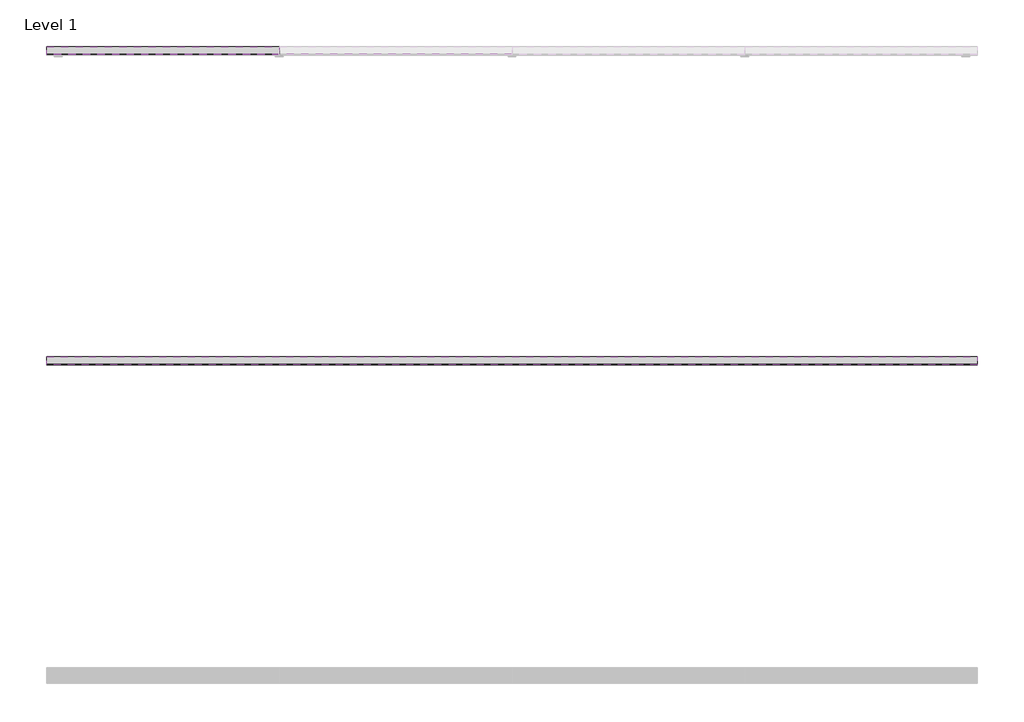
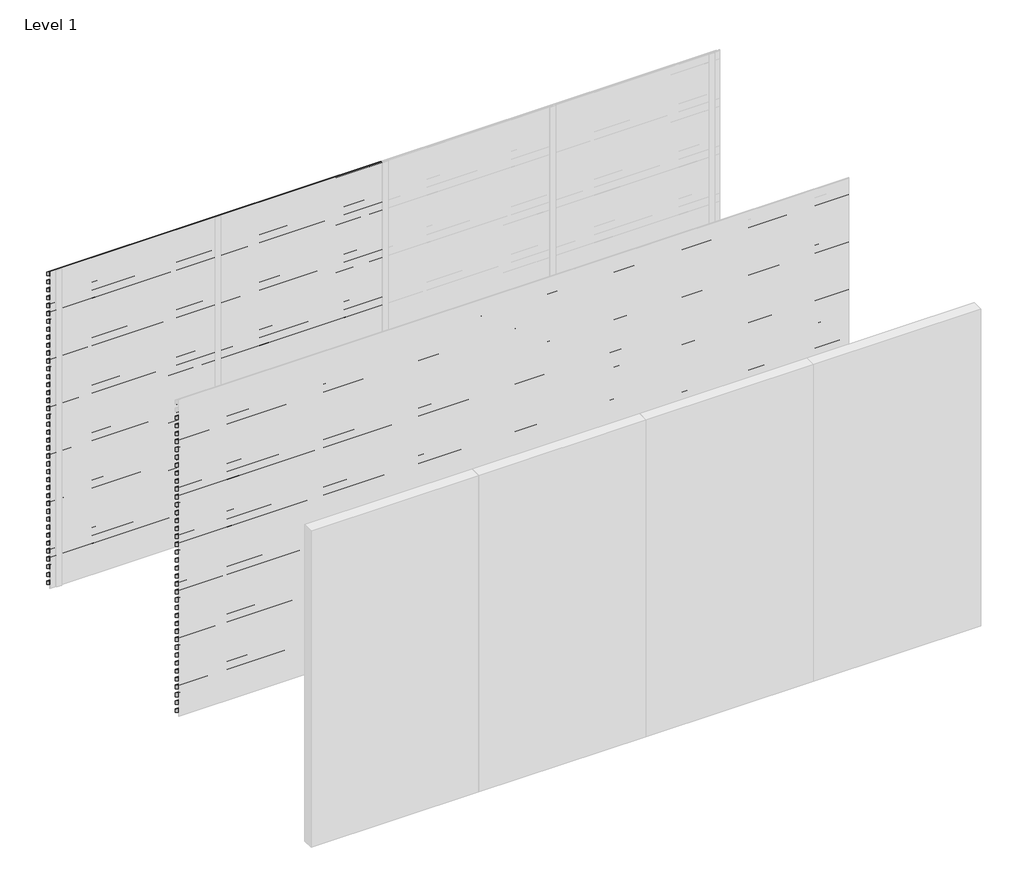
# One storey, part 8 of 9: 98 proxies.
"""IFC4 building model written with IfcOpenShell, lengths in millimetres."""

from ifc_helpers import new_model, si_unit, frame, origin, place, context, project, spatial, polyline, outline, extrude, element, save

model = new_model("IFC4")

# Units and contexts
model_context = context("Model", 3, world=origin())
ifc_project = project(units=[si_unit("LENGTHUNIT", "METRE", prefix="MILLI")], contexts=[model_context])

# Site, building, storey
site = spatial("IfcSite", under=ifc_project)
building = spatial("IfcBuilding", under=site)
storey = spatial("IfcBuildingStorey", under=building, Name="Level 1", Elevation=0.0)

# Proxies
placement = place(None, origin())
element("IfcBuildingElementProxy", 1, Name="Wall Sweeps", at=placement, inside=storey, context=model_context, shape_type="SweptSolid", body=[
    extrude(outline(polyline([(5.0, 3000.0), (5.0, 2991.2901632), (54.0, 2963.0), (54.0, 2928.0), (3.0, 2957.4448637), (3.0, 3000.0), (5.0, 3000.0)])), frame((0.0, 0.0, 0.0), z_axis=(1.0, 0.0, 0.0), x_axis=(0.0, 1.0, 0.0)), (0.0, 0.0, 1.0), 1500.0),
])
element("IfcBuildingElementProxy", 2, Name="Wall Sweeps", at=placement, inside=storey, context=model_context, shape_type="SweptSolid", body=[
    extrude(outline(polyline([(5.0, 2925.0), (5.0, 2916.2901632), (54.0, 2888.0), (54.0, 2853.0), (3.0, 2882.4448637), (3.0, 2925.0), (5.0, 2925.0)])), frame((0.0, 0.0, 0.0), z_axis=(1.0, 0.0, 0.0), x_axis=(0.0, 1.0, 0.0)), (0.0, 0.0, 1.0), 1500.0),
])
element("IfcBuildingElementProxy", 3, Name="Wall Sweeps", at=placement, inside=storey, context=model_context, shape_type="SweptSolid", body=[
    extrude(outline(polyline([(5.0, 2850.0), (5.0, 2841.2901632), (54.0, 2813.0), (54.0, 2778.0), (3.0, 2807.4448637), (3.0, 2850.0), (5.0, 2850.0)])), frame((0.0, 0.0, 0.0), z_axis=(1.0, 0.0, 0.0), x_axis=(0.0, 1.0, 0.0)), (0.0, 0.0, 1.0), 1500.0),
])
element("IfcBuildingElementProxy", 4, Name="Wall Sweeps", at=placement, inside=storey, context=model_context, shape_type="SweptSolid", body=[
    extrude(outline(polyline([(5.0, 2775.0), (5.0, 2766.2901632), (54.0, 2738.0), (54.0, 2703.0), (3.0, 2732.4448637), (3.0, 2775.0), (5.0, 2775.0)])), frame((0.0, 0.0, 0.0), z_axis=(1.0, 0.0, 0.0), x_axis=(0.0, 1.0, 0.0)), (0.0, 0.0, 1.0), 1500.0),
])
element("IfcBuildingElementProxy", 5, Name="Wall Sweeps", at=placement, inside=storey, context=model_context, shape_type="SweptSolid", body=[
    extrude(outline(polyline([(5.0, 2700.0), (5.0, 2691.2901632), (54.0, 2663.0), (54.0, 2628.0), (3.0, 2657.4448637), (3.0, 2700.0), (5.0, 2700.0)])), frame((0.0, 0.0, 0.0), z_axis=(1.0, 0.0, 0.0), x_axis=(0.0, 1.0, 0.0)), (0.0, 0.0, 1.0), 1500.0),
])
element("IfcBuildingElementProxy", 6, Name="Wall Sweeps", at=placement, inside=storey, context=model_context, shape_type="SweptSolid", body=[
    extrude(outline(polyline([(5.0, 2625.0), (5.0, 2616.2901632), (54.0, 2588.0), (54.0, 2553.0), (3.0, 2582.4448637), (3.0, 2625.0), (5.0, 2625.0)])), frame((0.0, 0.0, 0.0), z_axis=(1.0, 0.0, 0.0), x_axis=(0.0, 1.0, 0.0)), (0.0, 0.0, 1.0), 1500.0),
])
element("IfcBuildingElementProxy", 7, Name="Wall Sweeps", at=placement, inside=storey, context=model_context, shape_type="SweptSolid", body=[
    extrude(outline(polyline([(5.0, 2550.0), (5.0, 2541.2901632), (54.0, 2513.0), (54.0, 2478.0), (3.0, 2507.4448637), (3.0, 2550.0), (5.0, 2550.0)])), frame((0.0, 0.0, 0.0), z_axis=(1.0, 0.0, 0.0), x_axis=(0.0, 1.0, 0.0)), (0.0, 0.0, 1.0), 1500.0),
])
element("IfcBuildingElementProxy", 8, Name="Wall Sweeps", at=placement, inside=storey, context=model_context, shape_type="SweptSolid", body=[
    extrude(outline(polyline([(5.0, 2475.0), (5.0, 2466.2901632), (54.0, 2438.0), (54.0, 2403.0), (3.0, 2432.4448637), (3.0, 2475.0), (5.0, 2475.0)])), frame((0.0, 0.0, 0.0), z_axis=(1.0, 0.0, 0.0), x_axis=(0.0, 1.0, 0.0)), (0.0, 0.0, 1.0), 1500.0),
])
element("IfcBuildingElementProxy", 9, Name="Wall Sweeps", at=placement, inside=storey, context=model_context, shape_type="SweptSolid", body=[
    extrude(outline(polyline([(5.0, 2400.0), (5.0, 2391.2901632), (54.0, 2363.0), (54.0, 2328.0), (3.0, 2357.4448637), (3.0, 2400.0), (5.0, 2400.0)])), frame((0.0, 0.0, 0.0), z_axis=(1.0, 0.0, 0.0), x_axis=(0.0, 1.0, 0.0)), (0.0, 0.0, 1.0), 1500.0),
])
element("IfcBuildingElementProxy", 10, Name="Wall Sweeps", at=placement, inside=storey, context=model_context, shape_type="SweptSolid", body=[
    extrude(outline(polyline([(5.0, 2325.0), (5.0, 2316.2901632), (54.0, 2288.0), (54.0, 2253.0), (3.0, 2282.4448637), (3.0, 2325.0), (5.0, 2325.0)])), frame((0.0, 0.0, 0.0), z_axis=(1.0, 0.0, 0.0), x_axis=(0.0, 1.0, 0.0)), (0.0, 0.0, 1.0), 1500.0),
])
element("IfcBuildingElementProxy", 11, Name="Wall Sweeps", at=placement, inside=storey, context=model_context, shape_type="SweptSolid", body=[
    extrude(outline(polyline([(5.0, 2250.0), (5.0, 2241.2901632), (54.0, 2213.0), (54.0, 2178.0), (3.0, 2207.4448637), (3.0, 2250.0), (5.0, 2250.0)])), frame((0.0, 0.0, 0.0), z_axis=(1.0, 0.0, 0.0), x_axis=(0.0, 1.0, 0.0)), (0.0, 0.0, 1.0), 1500.0),
])
element("IfcBuildingElementProxy", 12, Name="Wall Sweeps", at=placement, inside=storey, context=model_context, shape_type="SweptSolid", body=[
    extrude(outline(polyline([(5.0, 2175.0), (5.0, 2166.2901632), (54.0, 2138.0), (54.0, 2103.0), (3.0, 2132.4448637), (3.0, 2175.0), (5.0, 2175.0)])), frame((0.0, 0.0, 0.0), z_axis=(1.0, 0.0, 0.0), x_axis=(0.0, 1.0, 0.0)), (0.0, 0.0, 1.0), 1500.0),
])
element("IfcBuildingElementProxy", 13, Name="Wall Sweeps", at=placement, inside=storey, context=model_context, shape_type="SweptSolid", body=[
    extrude(outline(polyline([(5.0, 2100.0), (5.0, 2091.2901632), (54.0, 2063.0), (54.0, 2028.0), (3.0, 2057.4448637), (3.0, 2100.0), (5.0, 2100.0)])), frame((0.0, 0.0, 0.0), z_axis=(1.0, 0.0, 0.0), x_axis=(0.0, 1.0, 0.0)), (0.0, 0.0, 1.0), 1500.0),
])
element("IfcBuildingElementProxy", 14, Name="Wall Sweeps", at=placement, inside=storey, context=model_context, shape_type="SweptSolid", body=[
    extrude(outline(polyline([(5.0, 2025.0), (5.0, 2016.2901632), (54.0, 1988.0), (54.0, 1953.0), (3.0, 1982.4448637), (3.0, 2025.0), (5.0, 2025.0)])), frame((0.0, 0.0, 0.0), z_axis=(1.0, 0.0, 0.0), x_axis=(0.0, 1.0, 0.0)), (0.0, 0.0, 1.0), 1500.0),
])
element("IfcBuildingElementProxy", 15, Name="Wall Sweeps", at=placement, inside=storey, context=model_context, shape_type="SweptSolid", body=[
    extrude(outline(polyline([(5.0, 1950.0), (5.0, 1941.2901632), (54.0, 1913.0), (54.0, 1878.0), (3.0, 1907.4448637), (3.0, 1950.0), (5.0, 1950.0)])), frame((0.0, 0.0, 0.0), z_axis=(1.0, 0.0, 0.0), x_axis=(0.0, 1.0, 0.0)), (0.0, 0.0, 1.0), 1500.0),
])
element("IfcBuildingElementProxy", 16, Name="Wall Sweeps", at=placement, inside=storey, context=model_context, shape_type="SweptSolid", body=[
    extrude(outline(polyline([(5.0, 1875.0), (5.0, 1866.2901632), (54.0, 1838.0), (54.0, 1803.0), (3.0, 1832.4448637), (3.0, 1875.0), (5.0, 1875.0)])), frame((0.0, 0.0, 0.0), z_axis=(1.0, 0.0, 0.0), x_axis=(0.0, 1.0, 0.0)), (0.0, 0.0, 1.0), 1500.0),
])
element("IfcBuildingElementProxy", 17, Name="Wall Sweeps", at=placement, inside=storey, context=model_context, shape_type="SweptSolid", body=[
    extrude(outline(polyline([(5.0, 1800.0), (5.0, 1791.2901632), (54.0, 1763.0), (54.0, 1728.0), (3.0, 1757.4448637), (3.0, 1800.0), (5.0, 1800.0)])), frame((0.0, 0.0, 0.0), z_axis=(1.0, 0.0, 0.0), x_axis=(0.0, 1.0, 0.0)), (0.0, 0.0, 1.0), 1500.0),
])
element("IfcBuildingElementProxy", 18, Name="Wall Sweeps", at=placement, inside=storey, context=model_context, shape_type="SweptSolid", body=[
    extrude(outline(polyline([(5.0, 1725.0), (5.0, 1716.2901632), (54.0, 1688.0), (54.0, 1653.0), (3.0, 1682.4448637), (3.0, 1725.0), (5.0, 1725.0)])), frame((0.0, 0.0, 0.0), z_axis=(1.0, 0.0, 0.0), x_axis=(0.0, 1.0, 0.0)), (0.0, 0.0, 1.0), 1500.0),
])
element("IfcBuildingElementProxy", 19, Name="Wall Sweeps", at=placement, inside=storey, context=model_context, shape_type="SweptSolid", body=[
    extrude(outline(polyline([(5.0, 1650.0), (5.0, 1641.2901632), (54.0, 1613.0), (54.0, 1578.0), (3.0, 1607.4448637), (3.0, 1650.0), (5.0, 1650.0)])), frame((0.0, 0.0, 0.0), z_axis=(1.0, 0.0, 0.0), x_axis=(0.0, 1.0, 0.0)), (0.0, 0.0, 1.0), 1500.0),
])
element("IfcBuildingElementProxy", 20, Name="Wall Sweeps", at=placement, inside=storey, context=model_context, shape_type="SweptSolid", body=[
    extrude(outline(polyline([(5.0, 1575.0), (5.0, 1566.2901632), (54.0, 1538.0), (54.0, 1503.0), (3.0, 1532.4448637), (3.0, 1575.0), (5.0, 1575.0)])), frame((0.0, 0.0, 0.0), z_axis=(1.0, 0.0, 0.0), x_axis=(0.0, 1.0, 0.0)), (0.0, 0.0, 1.0), 1500.0),
])
element("IfcBuildingElementProxy", 21, Name="Wall Sweeps", at=placement, inside=storey, context=model_context, shape_type="SweptSolid", body=[
    extrude(outline(polyline([(5.0, 1500.0), (5.0, 1491.2901632), (54.0, 1463.0), (54.0, 1428.0), (3.0, 1457.4448637), (3.0, 1500.0), (5.0, 1500.0)])), frame((0.0, 0.0, 0.0), z_axis=(1.0, 0.0, 0.0), x_axis=(0.0, 1.0, 0.0)), (0.0, 0.0, 1.0), 1500.0),
])
element("IfcBuildingElementProxy", 22, Name="Wall Sweeps", at=placement, inside=storey, context=model_context, shape_type="SweptSolid", body=[
    extrude(outline(polyline([(5.0, 1425.0), (5.0, 1416.2901632), (54.0, 1388.0), (54.0, 1353.0), (3.0, 1382.4448637), (3.0, 1425.0), (5.0, 1425.0)])), frame((0.0, 0.0, 0.0), z_axis=(1.0, 0.0, 0.0), x_axis=(0.0, 1.0, 0.0)), (0.0, 0.0, 1.0), 1500.0),
])
element("IfcBuildingElementProxy", 23, Name="Wall Sweeps", at=placement, inside=storey, context=model_context, shape_type="SweptSolid", body=[
    extrude(outline(polyline([(5.0, 1350.0), (5.0, 1341.2901632), (54.0, 1313.0), (54.0, 1278.0), (3.0, 1307.4448637), (3.0, 1350.0), (5.0, 1350.0)])), frame((0.0, 0.0, 0.0), z_axis=(1.0, 0.0, 0.0), x_axis=(0.0, 1.0, 0.0)), (0.0, 0.0, 1.0), 1500.0),
])
element("IfcBuildingElementProxy", 24, Name="Wall Sweeps", at=placement, inside=storey, context=model_context, shape_type="SweptSolid", body=[
    extrude(outline(polyline([(5.0, 1275.0), (5.0, 1266.2901632), (54.0, 1238.0), (54.0, 1203.0), (3.0, 1232.4448637), (3.0, 1275.0), (5.0, 1275.0)])), frame((0.0, 0.0, 0.0), z_axis=(1.0, 0.0, 0.0), x_axis=(0.0, 1.0, 0.0)), (0.0, 0.0, 1.0), 1500.0),
])
element("IfcBuildingElementProxy", 25, Name="Wall Sweeps", at=placement, inside=storey, context=model_context, shape_type="SweptSolid", body=[
    extrude(outline(polyline([(5.0, 1200.0), (5.0, 1191.2901632), (54.0, 1163.0), (54.0, 1128.0), (3.0, 1157.4448637), (3.0, 1200.0), (5.0, 1200.0)])), frame((0.0, 0.0, 0.0), z_axis=(1.0, 0.0, 0.0), x_axis=(0.0, 1.0, 0.0)), (0.0, 0.0, 1.0), 1500.0),
])
element("IfcBuildingElementProxy", 26, Name="Wall Sweeps", at=placement, inside=storey, context=model_context, shape_type="SweptSolid", body=[
    extrude(outline(polyline([(5.0, 1125.0), (5.0, 1116.2901632), (54.0, 1088.0), (54.0, 1053.0), (3.0, 1082.4448637), (3.0, 1125.0), (5.0, 1125.0)])), frame((0.0, 0.0, 0.0), z_axis=(1.0, 0.0, 0.0), x_axis=(0.0, 1.0, 0.0)), (0.0, 0.0, 1.0), 1500.0),
])
element("IfcBuildingElementProxy", 27, Name="Wall Sweeps", at=placement, inside=storey, context=model_context, shape_type="SweptSolid", body=[
    extrude(outline(polyline([(5.0, 1050.0), (5.0, 1041.2901632), (54.0, 1013.0), (54.0, 978.0), (3.0, 1007.4448637), (3.0, 1050.0), (5.0, 1050.0)])), frame((0.0, 0.0, 0.0), z_axis=(1.0, 0.0, 0.0), x_axis=(0.0, 1.0, 0.0)), (0.0, 0.0, 1.0), 1500.0),
])
element("IfcBuildingElementProxy", 28, Name="Wall Sweeps", at=placement, inside=storey, context=model_context, shape_type="SweptSolid", body=[
    extrude(outline(polyline([(5.0, 975.0), (5.0, 966.2901632), (54.0, 938.0), (54.0, 903.0), (3.0, 932.4448637), (3.0, 975.0), (5.0, 975.0)])), frame((0.0, 0.0, 0.0), z_axis=(1.0, 0.0, 0.0), x_axis=(0.0, 1.0, 0.0)), (0.0, 0.0, 1.0), 1500.0),
])
element("IfcBuildingElementProxy", 29, Name="Wall Sweeps", at=placement, inside=storey, context=model_context, shape_type="SweptSolid", body=[
    extrude(outline(polyline([(5.0, 900.0), (5.0, 891.2901632), (54.0, 863.0), (54.0, 828.0), (3.0, 857.4448637), (3.0, 900.0), (5.0, 900.0)])), frame((0.0, 0.0, 0.0), z_axis=(1.0, 0.0, 0.0), x_axis=(0.0, 1.0, 0.0)), (0.0, 0.0, 1.0), 1500.0),
])
element("IfcBuildingElementProxy", 30, Name="Wall Sweeps", at=placement, inside=storey, context=model_context, shape_type="SweptSolid", body=[
    extrude(outline(polyline([(5.0, 825.0), (5.0, 816.2901632), (54.0, 788.0), (54.0, 753.0), (3.0, 782.4448637), (3.0, 825.0), (5.0, 825.0)])), frame((0.0, 0.0, 0.0), z_axis=(1.0, 0.0, 0.0), x_axis=(0.0, 1.0, 0.0)), (0.0, 0.0, 1.0), 1500.0),
])
element("IfcBuildingElementProxy", 31, Name="Wall Sweeps", at=placement, inside=storey, context=model_context, shape_type="SweptSolid", body=[
    extrude(outline(polyline([(5.0, 750.0), (5.0, 741.2901632), (54.0, 713.0), (54.0, 678.0), (3.0, 707.4448637), (3.0, 750.0), (5.0, 750.0)])), frame((0.0, 0.0, 0.0), z_axis=(1.0, 0.0, 0.0), x_axis=(0.0, 1.0, 0.0)), (0.0, 0.0, 1.0), 1500.0),
])
element("IfcBuildingElementProxy", 32, Name="Wall Sweeps", at=placement, inside=storey, context=model_context, shape_type="SweptSolid", body=[
    extrude(outline(polyline([(5.0, 675.0), (5.0, 666.2901632), (54.0, 638.0), (54.0, 603.0), (3.0, 632.4448637), (3.0, 675.0), (5.0, 675.0)])), frame((0.0, 0.0, 0.0), z_axis=(1.0, 0.0, 0.0), x_axis=(0.0, 1.0, 0.0)), (0.0, 0.0, 1.0), 1500.0),
])
element("IfcBuildingElementProxy", 33, Name="Wall Sweeps", at=placement, inside=storey, context=model_context, shape_type="SweptSolid", body=[
    extrude(outline(polyline([(5.0, 600.0), (5.0, 591.2901632), (54.0, 563.0), (54.0, 528.0), (3.0, 557.4448637), (3.0, 600.0), (5.0, 600.0)])), frame((0.0, 0.0, 0.0), z_axis=(1.0, 0.0, 0.0), x_axis=(0.0, 1.0, 0.0)), (0.0, 0.0, 1.0), 1500.0),
])
element("IfcBuildingElementProxy", 34, Name="Wall Sweeps", at=placement, inside=storey, context=model_context, shape_type="SweptSolid", body=[
    extrude(outline(polyline([(5.0, 525.0), (5.0, 516.2901632), (54.0, 488.0), (54.0, 453.0), (3.0, 482.4448637), (3.0, 525.0), (5.0, 525.0)])), frame((0.0, 0.0, 0.0), z_axis=(1.0, 0.0, 0.0), x_axis=(0.0, 1.0, 0.0)), (0.0, 0.0, 1.0), 1500.0),
])
element("IfcBuildingElementProxy", 35, Name="Wall Sweeps", at=placement, inside=storey, context=model_context, shape_type="SweptSolid", body=[
    extrude(outline(polyline([(5.0, 450.0), (5.0, 441.2901632), (54.0, 413.0), (54.0, 378.0), (3.0, 407.4448637), (3.0, 450.0), (5.0, 450.0)])), frame((0.0, 0.0, 0.0), z_axis=(1.0, 0.0, 0.0), x_axis=(0.0, 1.0, 0.0)), (0.0, 0.0, 1.0), 1500.0),
])
element("IfcBuildingElementProxy", 36, Name="Wall Sweeps", at=placement, inside=storey, context=model_context, shape_type="SweptSolid", body=[
    extrude(outline(polyline([(5.0, 375.0), (5.0, 366.2901632), (54.0, 338.0), (54.0, 303.0), (3.0, 332.4448637), (3.0, 375.0), (5.0, 375.0)])), frame((0.0, 0.0, 0.0), z_axis=(1.0, 0.0, 0.0), x_axis=(0.0, 1.0, 0.0)), (0.0, 0.0, 1.0), 1500.0),
])
element("IfcBuildingElementProxy", 37, Name="Wall Sweeps", at=placement, inside=storey, context=model_context, shape_type="SweptSolid", body=[
    extrude(outline(polyline([(5.0, 300.0), (5.0, 291.2901632), (54.0, 263.0), (54.0, 228.0), (3.0, 257.4448637), (3.0, 300.0), (5.0, 300.0)])), frame((0.0, 0.0, 0.0), z_axis=(1.0, 0.0, 0.0), x_axis=(0.0, 1.0, 0.0)), (0.0, 0.0, 1.0), 1500.0),
])
element("IfcBuildingElementProxy", 38, Name="Wall Sweeps", at=placement, inside=storey, context=model_context, shape_type="SweptSolid", body=[
    extrude(outline(polyline([(5.0, 225.0), (5.0, 216.2901632), (54.0, 188.0), (54.0, 153.0), (3.0, 182.4448637), (3.0, 225.0), (5.0, 225.0)])), frame((0.0, 0.0, 0.0), z_axis=(1.0, 0.0, 0.0), x_axis=(0.0, 1.0, 0.0)), (0.0, 0.0, 1.0), 1500.0),
])
element("IfcBuildingElementProxy", 39, Name="Wall Sweeps", at=placement, inside=storey, context=model_context, shape_type="SweptSolid", body=[
    extrude(outline(polyline([(5.0, 150.0), (5.0, 141.2901632), (54.0, 113.0), (54.0, 78.0), (3.0, 107.4448637), (3.0, 150.0), (5.0, 150.0)])), frame((0.0, 0.0, 0.0), z_axis=(1.0, 0.0, 0.0), x_axis=(0.0, 1.0, 0.0)), (0.0, 0.0, 1.0), 1500.0),
])
element("IfcBuildingElementProxy", 40, Name="Wall Sweeps", at=placement, inside=storey, context=model_context, shape_type="SweptSolid", body=[
    extrude(outline(polyline([(5.0, 75.0), (5.0, 66.2901632), (54.0, 38.0), (54.0, 3.0), (3.0, 32.4448637), (3.0, 75.0), (5.0, 75.0)])), frame((0.0, 0.0, 0.0), z_axis=(1.0, 0.0, 0.0), x_axis=(0.0, 1.0, 0.0)), (0.0, 0.0, 1.0), 1500.0),
])
element("IfcBuildingElementProxy", 41, Name="Wall Sweeps", at=placement, inside=storey, context=model_context, shape_type="SweptSolid", body=[
    extrude(outline(polyline([(5.0, 3000.0), (5.0, 2991.2901632), (54.0, 2963.0), (54.0, 2928.0), (3.0, 2957.4448637), (3.0, 3000.0), (5.0, 3000.0)])), frame((1500.0, 0.0, 0.0), z_axis=(1.0, 0.0, 0.0), x_axis=(0.0, 1.0, 0.0)), (0.0, 0.0, 1.0), 1500.0),
])
element("IfcBuildingElementProxy", 42, Name="Wall Sweeps", at=placement, inside=storey, context=model_context, shape_type="SweptSolid", body=[
    extrude(outline(polyline([(5.0, 2925.0), (5.0, 2916.2901632), (54.0, 2888.0), (54.0, 2853.0), (3.0, 2882.4448637), (3.0, 2925.0), (5.0, 2925.0)])), frame((1500.0, 0.0, 0.0), z_axis=(1.0, 0.0, 0.0), x_axis=(0.0, 1.0, 0.0)), (0.0, 0.0, 1.0), 1500.0),
])
element("IfcBuildingElementProxy", 43, Name="Wall Sweeps", at=placement, inside=storey, context=model_context, shape_type="SweptSolid", body=[
    extrude(outline(polyline([(5.0, 2850.0), (5.0, 2841.2901632), (54.0, 2813.0), (54.0, 2778.0), (3.0, 2807.4448637), (3.0, 2850.0), (5.0, 2850.0)])), frame((1500.0, 0.0, 0.0), z_axis=(1.0, 0.0, 0.0), x_axis=(0.0, 1.0, 0.0)), (0.0, 0.0, 1.0), 1500.0),
])
element("IfcBuildingElementProxy", 44, Name="Wall Sweeps", at=placement, inside=storey, context=model_context, shape_type="SweptSolid", body=[
    extrude(outline(polyline([(5.0, 2775.0), (5.0, 2766.2901632), (54.0, 2738.0), (54.0, 2703.0), (3.0, 2732.4448637), (3.0, 2775.0), (5.0, 2775.0)])), frame((1500.0, 0.0, 0.0), z_axis=(1.0, 0.0, 0.0), x_axis=(0.0, 1.0, 0.0)), (0.0, 0.0, 1.0), 1500.0),
])
element("IfcBuildingElementProxy", 45, Name="Wall Sweeps", at=placement, inside=storey, context=model_context, shape_type="SweptSolid", body=[
    extrude(outline(polyline([(5.0, 2700.0), (5.0, 2691.2901632), (54.0, 2663.0), (54.0, 2628.0), (3.0, 2657.4448637), (3.0, 2700.0), (5.0, 2700.0)])), frame((1500.0, 0.0, 0.0), z_axis=(1.0, 0.0, 0.0), x_axis=(0.0, 1.0, 0.0)), (0.0, 0.0, 1.0), 1500.0),
])
element("IfcBuildingElementProxy", 46, Name="Wall Sweeps", at=placement, inside=storey, context=model_context, shape_type="SweptSolid", body=[
    extrude(outline(polyline([(5.0, 2625.0), (5.0, 2616.2901632), (54.0, 2588.0), (54.0, 2553.0), (3.0, 2582.4448637), (3.0, 2625.0), (5.0, 2625.0)])), frame((1500.0, 0.0, 0.0), z_axis=(1.0, 0.0, 0.0), x_axis=(0.0, 1.0, 0.0)), (0.0, 0.0, 1.0), 1500.0),
])
element("IfcBuildingElementProxy", 47, Name="Wall Sweeps", at=placement, inside=storey, context=model_context, shape_type="SweptSolid", body=[
    extrude(outline(polyline([(5.0, 2550.0), (5.0, 2541.2901632), (54.0, 2513.0), (54.0, 2478.0), (3.0, 2507.4448637), (3.0, 2550.0), (5.0, 2550.0)])), frame((1500.0, 0.0, 0.0), z_axis=(1.0, 0.0, 0.0), x_axis=(0.0, 1.0, 0.0)), (0.0, 0.0, 1.0), 1500.0),
])
element("IfcBuildingElementProxy", 48, Name="Wall Sweeps", at=placement, inside=storey, context=model_context, shape_type="SweptSolid", body=[
    extrude(outline(polyline([(5.0, 2475.0), (5.0, 2466.2901632), (54.0, 2438.0), (54.0, 2403.0), (3.0, 2432.4448637), (3.0, 2475.0), (5.0, 2475.0)])), frame((1500.0, 0.0, 0.0), z_axis=(1.0, 0.0, 0.0), x_axis=(0.0, 1.0, 0.0)), (0.0, 0.0, 1.0), 1500.0),
])
element("IfcBuildingElementProxy", 49, Name="Wall Sweeps", at=placement, inside=storey, context=model_context, shape_type="SweptSolid", body=[
    extrude(outline(polyline([(5.0, 2400.0), (5.0, 2391.2901632), (54.0, 2363.0), (54.0, 2328.0), (3.0, 2357.4448637), (3.0, 2400.0), (5.0, 2400.0)])), frame((1500.0, 0.0, 0.0), z_axis=(1.0, 0.0, 0.0), x_axis=(0.0, 1.0, 0.0)), (0.0, 0.0, 1.0), 1500.0),
])
element("IfcBuildingElementProxy", 50, Name="Wall Sweeps", at=placement, inside=storey, context=model_context, shape_type="SweptSolid", body=[
    extrude(outline(polyline([(5.0, 2325.0), (5.0, 2316.2901632), (54.0, 2288.0), (54.0, 2253.0), (3.0, 2282.4448637), (3.0, 2325.0), (5.0, 2325.0)])), frame((1500.0, 0.0, 0.0), z_axis=(1.0, 0.0, 0.0), x_axis=(0.0, 1.0, 0.0)), (0.0, 0.0, 1.0), 1500.0),
])
element("IfcBuildingElementProxy", 51, Name="Wall Sweeps", at=placement, inside=storey, context=model_context, shape_type="SweptSolid", body=[
    extrude(outline(polyline([(5.0, 2250.0), (5.0, 2241.2901632), (54.0, 2213.0), (54.0, 2178.0), (3.0, 2207.4448637), (3.0, 2250.0), (5.0, 2250.0)])), frame((1500.0, 0.0, 0.0), z_axis=(1.0, 0.0, 0.0), x_axis=(0.0, 1.0, 0.0)), (0.0, 0.0, 1.0), 1500.0),
])
element("IfcBuildingElementProxy", 52, Name="Wall Sweeps", at=placement, inside=storey, context=model_context, shape_type="SweptSolid", body=[
    extrude(outline(polyline([(5.0, 2175.0), (5.0, 2166.2901632), (54.0, 2138.0), (54.0, 2103.0), (3.0, 2132.4448637), (3.0, 2175.0), (5.0, 2175.0)])), frame((1500.0, 0.0, 0.0), z_axis=(1.0, 0.0, 0.0), x_axis=(0.0, 1.0, 0.0)), (0.0, 0.0, 1.0), 1500.0),
])
element("IfcBuildingElementProxy", 53, Name="Wall Sweeps", at=placement, inside=storey, context=model_context, shape_type="SweptSolid", body=[
    extrude(outline(polyline([(5.0, 2100.0), (5.0, 2091.2901632), (54.0, 2063.0), (54.0, 2028.0), (3.0, 2057.4448637), (3.0, 2100.0), (5.0, 2100.0)])), frame((1500.0, 0.0, 0.0), z_axis=(1.0, 0.0, 0.0), x_axis=(0.0, 1.0, 0.0)), (0.0, 0.0, 1.0), 1500.0),
])
element("IfcBuildingElementProxy", 54, Name="Wall Sweeps", at=placement, inside=storey, context=model_context, shape_type="SweptSolid", body=[
    extrude(outline(polyline([(5.0, 2025.0), (5.0, 2016.2901632), (54.0, 1988.0), (54.0, 1953.0), (3.0, 1982.4448637), (3.0, 2025.0), (5.0, 2025.0)])), frame((1500.0, 0.0, 0.0), z_axis=(1.0, 0.0, 0.0), x_axis=(0.0, 1.0, 0.0)), (0.0, 0.0, 1.0), 1500.0),
])
element("IfcBuildingElementProxy", 55, Name="Wall Sweeps", at=placement, inside=storey, context=model_context, shape_type="SweptSolid", body=[
    extrude(outline(polyline([(5.0, 1950.0), (5.0, 1941.2901632), (54.0, 1913.0), (54.0, 1878.0), (3.0, 1907.4448637), (3.0, 1950.0), (5.0, 1950.0)])), frame((1500.0, 0.0, 0.0), z_axis=(1.0, 0.0, 0.0), x_axis=(0.0, 1.0, 0.0)), (0.0, 0.0, 1.0), 1500.0),
])
element("IfcBuildingElementProxy", 56, Name="Wall Sweeps", at=placement, inside=storey, context=model_context, shape_type="SweptSolid", body=[
    extrude(outline(polyline([(5.0, 1875.0), (5.0, 1866.2901632), (54.0, 1838.0), (54.0, 1803.0), (3.0, 1832.4448637), (3.0, 1875.0), (5.0, 1875.0)])), frame((1500.0, 0.0, 0.0), z_axis=(1.0, 0.0, 0.0), x_axis=(0.0, 1.0, 0.0)), (0.0, 0.0, 1.0), 1500.0),
])
element("IfcBuildingElementProxy", 57, Name="Wall Sweeps", at=placement, inside=storey, context=model_context, shape_type="SweptSolid", body=[
    extrude(outline(polyline([(5.0, 1800.0), (5.0, 1791.2901632), (54.0, 1763.0), (54.0, 1728.0), (3.0, 1757.4448637), (3.0, 1800.0), (5.0, 1800.0)])), frame((1500.0, 0.0, 0.0), z_axis=(1.0, 0.0, 0.0), x_axis=(0.0, 1.0, 0.0)), (0.0, 0.0, 1.0), 1500.0),
])
element("IfcBuildingElementProxy", 58, Name="Wall Sweeps", at=placement, inside=storey, context=model_context, shape_type="SweptSolid", body=[
    extrude(outline(polyline([(5.0, 1725.0), (5.0, 1716.2901632), (54.0, 1688.0), (54.0, 1653.0), (3.0, 1682.4448637), (3.0, 1725.0), (5.0, 1725.0)])), frame((1500.0, 0.0, 0.0), z_axis=(1.0, 0.0, 0.0), x_axis=(0.0, 1.0, 0.0)), (0.0, 0.0, 1.0), 1500.0),
])
element("IfcBuildingElementProxy", 59, Name="Wall Sweeps", at=placement, inside=storey, context=model_context, shape_type="SweptSolid", body=[
    extrude(outline(polyline([(5.0, 1650.0), (5.0, 1641.2901632), (54.0, 1613.0), (54.0, 1578.0), (3.0, 1607.4448637), (3.0, 1650.0), (5.0, 1650.0)])), frame((1500.0, 0.0, 0.0), z_axis=(1.0, 0.0, 0.0), x_axis=(0.0, 1.0, 0.0)), (0.0, 0.0, 1.0), 1500.0),
])
element("IfcBuildingElementProxy", 60, Name="Wall Sweeps", at=placement, inside=storey, context=model_context, shape_type="SweptSolid", body=[
    extrude(outline(polyline([(5.0, 1575.0), (5.0, 1566.2901632), (54.0, 1538.0), (54.0, 1503.0), (3.0, 1532.4448637), (3.0, 1575.0), (5.0, 1575.0)])), frame((1500.0, 0.0, 0.0), z_axis=(1.0, 0.0, 0.0), x_axis=(0.0, 1.0, 0.0)), (0.0, 0.0, 1.0), 1500.0),
])
element("IfcBuildingElementProxy", 61, Name="Wall Sweeps", at=placement, inside=storey, context=model_context, shape_type="SweptSolid", body=[
    extrude(outline(polyline([(-1995.0, 2850.0), (-1995.0, 2841.2901632), (-1946.0, 2813.0), (-1946.0, 2778.0), (-1997.0, 2807.4448637), (-1997.0, 2850.0), (-1995.0, 2850.0)])), frame((0.0, 0.0, 0.0), z_axis=(1.0, 0.0, 0.0), x_axis=(0.0, 1.0, 0.0)), (0.0, 0.0, 1.0), 6000.0),
])
element("IfcBuildingElementProxy", 62, Name="Wall Sweeps", at=placement, inside=storey, context=model_context, shape_type="SweptSolid", body=[
    extrude(outline(polyline([(-1995.0, 2775.0), (-1995.0, 2766.2901632), (-1946.0, 2738.0), (-1946.0, 2703.0), (-1997.0, 2732.4448637), (-1997.0, 2775.0), (-1995.0, 2775.0)])), frame((0.0, 0.0, 0.0), z_axis=(1.0, 0.0, 0.0), x_axis=(0.0, 1.0, 0.0)), (0.0, 0.0, 1.0), 6000.0),
])
element("IfcBuildingElementProxy", 63, Name="Wall Sweeps", at=placement, inside=storey, context=model_context, shape_type="SweptSolid", body=[
    extrude(outline(polyline([(-1995.0, 2700.0), (-1995.0, 2691.2901632), (-1946.0, 2663.0), (-1946.0, 2628.0), (-1997.0, 2657.4448637), (-1997.0, 2700.0), (-1995.0, 2700.0)])), frame((0.0, 0.0, 0.0), z_axis=(1.0, 0.0, 0.0), x_axis=(0.0, 1.0, 0.0)), (0.0, 0.0, 1.0), 6000.0),
])
element("IfcBuildingElementProxy", 64, Name="Wall Sweeps", at=placement, inside=storey, context=model_context, shape_type="SweptSolid", body=[
    extrude(outline(polyline([(-1995.0, 2625.0), (-1995.0, 2616.2901632), (-1946.0, 2588.0), (-1946.0, 2553.0), (-1997.0, 2582.4448637), (-1997.0, 2625.0), (-1995.0, 2625.0)])), frame((0.0, 0.0, 0.0), z_axis=(1.0, 0.0, 0.0), x_axis=(0.0, 1.0, 0.0)), (0.0, 0.0, 1.0), 6000.0),
])
element("IfcBuildingElementProxy", 65, Name="Wall Sweeps", at=placement, inside=storey, context=model_context, shape_type="SweptSolid", body=[
    extrude(outline(polyline([(-1995.0, 2550.0), (-1995.0, 2541.2901632), (-1946.0, 2513.0), (-1946.0, 2478.0), (-1997.0, 2507.4448637), (-1997.0, 2550.0), (-1995.0, 2550.0)])), frame((0.0, 0.0, 0.0), z_axis=(1.0, 0.0, 0.0), x_axis=(0.0, 1.0, 0.0)), (0.0, 0.0, 1.0), 6000.0),
])
element("IfcBuildingElementProxy", 66, Name="Wall Sweeps", at=placement, inside=storey, context=model_context, shape_type="SweptSolid", body=[
    extrude(outline(polyline([(-1995.0, 2475.0), (-1995.0, 2466.2901632), (-1946.0, 2438.0), (-1946.0, 2403.0), (-1997.0, 2432.4448637), (-1997.0, 2475.0), (-1995.0, 2475.0)])), frame((0.0, 0.0, 0.0), z_axis=(1.0, 0.0, 0.0), x_axis=(0.0, 1.0, 0.0)), (0.0, 0.0, 1.0), 6000.0),
])
element("IfcBuildingElementProxy", 67, Name="Wall Sweeps", at=placement, inside=storey, context=model_context, shape_type="SweptSolid", body=[
    extrude(outline(polyline([(-1995.0, 2400.0), (-1995.0, 2391.2901632), (-1946.0, 2363.0), (-1946.0, 2328.0), (-1997.0, 2357.4448637), (-1997.0, 2400.0), (-1995.0, 2400.0)])), frame((0.0, 0.0, 0.0), z_axis=(1.0, 0.0, 0.0), x_axis=(0.0, 1.0, 0.0)), (0.0, 0.0, 1.0), 6000.0),
])
element("IfcBuildingElementProxy", 68, Name="Wall Sweeps", at=placement, inside=storey, context=model_context, shape_type="SweptSolid", body=[
    extrude(outline(polyline([(-1995.0, 2325.0), (-1995.0, 2316.2901632), (-1946.0, 2288.0), (-1946.0, 2253.0), (-1997.0, 2282.4448637), (-1997.0, 2325.0), (-1995.0, 2325.0)])), frame((0.0, 0.0, 0.0), z_axis=(1.0, 0.0, 0.0), x_axis=(0.0, 1.0, 0.0)), (0.0, 0.0, 1.0), 6000.0),
])
element("IfcBuildingElementProxy", 69, Name="Wall Sweeps", at=placement, inside=storey, context=model_context, shape_type="SweptSolid", body=[
    extrude(outline(polyline([(-1995.0, 2250.0), (-1995.0, 2241.2901632), (-1946.0, 2213.0), (-1946.0, 2178.0), (-1997.0, 2207.4448637), (-1997.0, 2250.0), (-1995.0, 2250.0)])), frame((0.0, 0.0, 0.0), z_axis=(1.0, 0.0, 0.0), x_axis=(0.0, 1.0, 0.0)), (0.0, 0.0, 1.0), 6000.0),
])
element("IfcBuildingElementProxy", 70, Name="Wall Sweeps", at=placement, inside=storey, context=model_context, shape_type="SweptSolid", body=[
    extrude(outline(polyline([(-1995.0, 2175.0), (-1995.0, 2166.2901632), (-1946.0, 2138.0), (-1946.0, 2103.0), (-1997.0, 2132.4448637), (-1997.0, 2175.0), (-1995.0, 2175.0)])), frame((0.0, 0.0, 0.0), z_axis=(1.0, 0.0, 0.0), x_axis=(0.0, 1.0, 0.0)), (0.0, 0.0, 1.0), 6000.0),
])
element("IfcBuildingElementProxy", 71, Name="Wall Sweeps", at=placement, inside=storey, context=model_context, shape_type="SweptSolid", body=[
    extrude(outline(polyline([(-1995.0, 2100.0), (-1995.0, 2091.2901632), (-1946.0, 2063.0), (-1946.0, 2028.0), (-1997.0, 2057.4448637), (-1997.0, 2100.0), (-1995.0, 2100.0)])), frame((0.0, 0.0, 0.0), z_axis=(1.0, 0.0, 0.0), x_axis=(0.0, 1.0, 0.0)), (0.0, 0.0, 1.0), 6000.0),
])
element("IfcBuildingElementProxy", 72, Name="Wall Sweeps", at=placement, inside=storey, context=model_context, shape_type="SweptSolid", body=[
    extrude(outline(polyline([(-1995.0, 2025.0), (-1995.0, 2016.2901632), (-1946.0, 1988.0), (-1946.0, 1953.0), (-1997.0, 1982.4448637), (-1997.0, 2025.0), (-1995.0, 2025.0)])), frame((0.0, 0.0, 0.0), z_axis=(1.0, 0.0, 0.0), x_axis=(0.0, 1.0, 0.0)), (0.0, 0.0, 1.0), 6000.0),
])
element("IfcBuildingElementProxy", 73, Name="Wall Sweeps", at=placement, inside=storey, context=model_context, shape_type="SweptSolid", body=[
    extrude(outline(polyline([(-1995.0, 1950.0), (-1995.0, 1941.2901632), (-1946.0, 1913.0), (-1946.0, 1878.0), (-1997.0, 1907.4448637), (-1997.0, 1950.0), (-1995.0, 1950.0)])), frame((0.0, 0.0, 0.0), z_axis=(1.0, 0.0, 0.0), x_axis=(0.0, 1.0, 0.0)), (0.0, 0.0, 1.0), 6000.0),
])
element("IfcBuildingElementProxy", 74, Name="Wall Sweeps", at=placement, inside=storey, context=model_context, shape_type="SweptSolid", body=[
    extrude(outline(polyline([(-1995.0, 1875.0), (-1995.0, 1866.2901632), (-1946.0, 1838.0), (-1946.0, 1803.0), (-1997.0, 1832.4448637), (-1997.0, 1875.0), (-1995.0, 1875.0)])), frame((0.0, 0.0, 0.0), z_axis=(1.0, 0.0, 0.0), x_axis=(0.0, 1.0, 0.0)), (0.0, 0.0, 1.0), 6000.0),
])
element("IfcBuildingElementProxy", 75, Name="Wall Sweeps", at=placement, inside=storey, context=model_context, shape_type="SweptSolid", body=[
    extrude(outline(polyline([(-1995.0, 1800.0), (-1995.0, 1791.2901632), (-1946.0, 1763.0), (-1946.0, 1728.0), (-1997.0, 1757.4448637), (-1997.0, 1800.0), (-1995.0, 1800.0)])), frame((0.0, 0.0, 0.0), z_axis=(1.0, 0.0, 0.0), x_axis=(0.0, 1.0, 0.0)), (0.0, 0.0, 1.0), 6000.0),
])
element("IfcBuildingElementProxy", 76, Name="Wall Sweeps", at=placement, inside=storey, context=model_context, shape_type="SweptSolid", body=[
    extrude(outline(polyline([(-1995.0, 1725.0), (-1995.0, 1716.2901632), (-1946.0, 1688.0), (-1946.0, 1653.0), (-1997.0, 1682.4448637), (-1997.0, 1725.0), (-1995.0, 1725.0)])), frame((0.0, 0.0, 0.0), z_axis=(1.0, 0.0, 0.0), x_axis=(0.0, 1.0, 0.0)), (0.0, 0.0, 1.0), 6000.0),
])
element("IfcBuildingElementProxy", 77, Name="Wall Sweeps", at=placement, inside=storey, context=model_context, shape_type="SweptSolid", body=[
    extrude(outline(polyline([(-1995.0, 1650.0), (-1995.0, 1641.2901632), (-1946.0, 1613.0), (-1946.0, 1578.0), (-1997.0, 1607.4448637), (-1997.0, 1650.0), (-1995.0, 1650.0)])), frame((0.0, 0.0, 0.0), z_axis=(1.0, 0.0, 0.0), x_axis=(0.0, 1.0, 0.0)), (0.0, 0.0, 1.0), 6000.0),
])
element("IfcBuildingElementProxy", 78, Name="Wall Sweeps", at=placement, inside=storey, context=model_context, shape_type="SweptSolid", body=[
    extrude(outline(polyline([(-1995.0, 1575.0), (-1995.0, 1566.2901632), (-1946.0, 1538.0), (-1946.0, 1503.0), (-1997.0, 1532.4448637), (-1997.0, 1575.0), (-1995.0, 1575.0)])), frame((0.0, 0.0, 0.0), z_axis=(1.0, 0.0, 0.0), x_axis=(0.0, 1.0, 0.0)), (0.0, 0.0, 1.0), 6000.0),
])
element("IfcBuildingElementProxy", 79, Name="Wall Sweeps", at=placement, inside=storey, context=model_context, shape_type="SweptSolid", body=[
    extrude(outline(polyline([(-1995.0, 1500.0), (-1995.0, 1491.2901632), (-1946.0, 1463.0), (-1946.0, 1428.0), (-1997.0, 1457.4448637), (-1997.0, 1500.0), (-1995.0, 1500.0)])), frame((0.0, 0.0, 0.0), z_axis=(1.0, 0.0, 0.0), x_axis=(0.0, 1.0, 0.0)), (0.0, 0.0, 1.0), 6000.0),
])
element("IfcBuildingElementProxy", 80, Name="Wall Sweeps", at=placement, inside=storey, context=model_context, shape_type="SweptSolid", body=[
    extrude(outline(polyline([(-1995.0, 1425.0), (-1995.0, 1416.2901632), (-1946.0, 1388.0), (-1946.0, 1353.0), (-1997.0, 1382.4448637), (-1997.0, 1425.0), (-1995.0, 1425.0)])), frame((0.0, 0.0, 0.0), z_axis=(1.0, 0.0, 0.0), x_axis=(0.0, 1.0, 0.0)), (0.0, 0.0, 1.0), 6000.0),
])
element("IfcBuildingElementProxy", 81, Name="Wall Sweeps", at=placement, inside=storey, context=model_context, shape_type="SweptSolid", body=[
    extrude(outline(polyline([(-1995.0, 1350.0), (-1995.0, 1341.2901632), (-1946.0, 1313.0), (-1946.0, 1278.0), (-1997.0, 1307.4448637), (-1997.0, 1350.0), (-1995.0, 1350.0)])), frame((0.0, 0.0, 0.0), z_axis=(1.0, 0.0, 0.0), x_axis=(0.0, 1.0, 0.0)), (0.0, 0.0, 1.0), 6000.0),
])
element("IfcBuildingElementProxy", 82, Name="Wall Sweeps", at=placement, inside=storey, context=model_context, shape_type="SweptSolid", body=[
    extrude(outline(polyline([(-1995.0, 1275.0), (-1995.0, 1266.2901632), (-1946.0, 1238.0), (-1946.0, 1203.0), (-1997.0, 1232.4448637), (-1997.0, 1275.0), (-1995.0, 1275.0)])), frame((0.0, 0.0, 0.0), z_axis=(1.0, 0.0, 0.0), x_axis=(0.0, 1.0, 0.0)), (0.0, 0.0, 1.0), 6000.0),
])
element("IfcBuildingElementProxy", 83, Name="Wall Sweeps", at=placement, inside=storey, context=model_context, shape_type="SweptSolid", body=[
    extrude(outline(polyline([(-1995.0, 1200.0), (-1995.0, 1191.2901632), (-1946.0, 1163.0), (-1946.0, 1128.0), (-1997.0, 1157.4448637), (-1997.0, 1200.0), (-1995.0, 1200.0)])), frame((0.0, 0.0, 0.0), z_axis=(1.0, 0.0, 0.0), x_axis=(0.0, 1.0, 0.0)), (0.0, 0.0, 1.0), 6000.0),
])
element("IfcBuildingElementProxy", 84, Name="Wall Sweeps", at=placement, inside=storey, context=model_context, shape_type="SweptSolid", body=[
    extrude(outline(polyline([(-1995.0, 1125.0), (-1995.0, 1116.2901632), (-1946.0, 1088.0), (-1946.0, 1053.0), (-1997.0, 1082.4448637), (-1997.0, 1125.0), (-1995.0, 1125.0)])), frame((0.0, 0.0, 0.0), z_axis=(1.0, 0.0, 0.0), x_axis=(0.0, 1.0, 0.0)), (0.0, 0.0, 1.0), 6000.0),
])
element("IfcBuildingElementProxy", 85, Name="Wall Sweeps", at=placement, inside=storey, context=model_context, shape_type="SweptSolid", body=[
    extrude(outline(polyline([(-1995.0, 1050.0), (-1995.0, 1041.2901632), (-1946.0, 1013.0), (-1946.0, 978.0), (-1997.0, 1007.4448637), (-1997.0, 1050.0), (-1995.0, 1050.0)])), frame((0.0, 0.0, 0.0), z_axis=(1.0, 0.0, 0.0), x_axis=(0.0, 1.0, 0.0)), (0.0, 0.0, 1.0), 6000.0),
])
element("IfcBuildingElementProxy", 86, Name="Wall Sweeps", at=placement, inside=storey, context=model_context, shape_type="SweptSolid", body=[
    extrude(outline(polyline([(-1995.0, 975.0), (-1995.0, 966.2901632), (-1946.0, 938.0), (-1946.0, 903.0), (-1997.0, 932.4448637), (-1997.0, 975.0), (-1995.0, 975.0)])), frame((0.0, 0.0, 0.0), z_axis=(1.0, 0.0, 0.0), x_axis=(0.0, 1.0, 0.0)), (0.0, 0.0, 1.0), 6000.0),
])
element("IfcBuildingElementProxy", 87, Name="Wall Sweeps", at=placement, inside=storey, context=model_context, shape_type="SweptSolid", body=[
    extrude(outline(polyline([(-1995.0, 900.0), (-1995.0, 891.2901632), (-1946.0, 863.0), (-1946.0, 828.0), (-1997.0, 857.4448637), (-1997.0, 900.0), (-1995.0, 900.0)])), frame((0.0, 0.0, 0.0), z_axis=(1.0, 0.0, 0.0), x_axis=(0.0, 1.0, 0.0)), (0.0, 0.0, 1.0), 6000.0),
])
element("IfcBuildingElementProxy", 88, Name="Wall Sweeps", at=placement, inside=storey, context=model_context, shape_type="SweptSolid", body=[
    extrude(outline(polyline([(-1995.0, 825.0), (-1995.0, 816.2901632), (-1946.0, 788.0), (-1946.0, 753.0), (-1997.0, 782.4448637), (-1997.0, 825.0), (-1995.0, 825.0)])), frame((0.0, 0.0, 0.0), z_axis=(1.0, 0.0, 0.0), x_axis=(0.0, 1.0, 0.0)), (0.0, 0.0, 1.0), 6000.0),
])
element("IfcBuildingElementProxy", 89, Name="Wall Sweeps", at=placement, inside=storey, context=model_context, shape_type="SweptSolid", body=[
    extrude(outline(polyline([(-1995.0, 750.0), (-1995.0, 741.2901632), (-1946.0, 713.0), (-1946.0, 678.0), (-1997.0, 707.4448637), (-1997.0, 750.0), (-1995.0, 750.0)])), frame((0.0, 0.0, 0.0), z_axis=(1.0, 0.0, 0.0), x_axis=(0.0, 1.0, 0.0)), (0.0, 0.0, 1.0), 6000.0),
])
element("IfcBuildingElementProxy", 90, Name="Wall Sweeps", at=placement, inside=storey, context=model_context, shape_type="SweptSolid", body=[
    extrude(outline(polyline([(-1995.0, 675.0), (-1995.0, 666.2901632), (-1946.0, 638.0), (-1946.0, 603.0), (-1997.0, 632.4448637), (-1997.0, 675.0), (-1995.0, 675.0)])), frame((0.0, 0.0, 0.0), z_axis=(1.0, 0.0, 0.0), x_axis=(0.0, 1.0, 0.0)), (0.0, 0.0, 1.0), 6000.0),
])
element("IfcBuildingElementProxy", 91, Name="Wall Sweeps", at=placement, inside=storey, context=model_context, shape_type="SweptSolid", body=[
    extrude(outline(polyline([(-1995.0, 600.0), (-1995.0, 591.2901632), (-1946.0, 563.0), (-1946.0, 528.0), (-1997.0, 557.4448637), (-1997.0, 600.0), (-1995.0, 600.0)])), frame((0.0, 0.0, 0.0), z_axis=(1.0, 0.0, 0.0), x_axis=(0.0, 1.0, 0.0)), (0.0, 0.0, 1.0), 6000.0),
])
element("IfcBuildingElementProxy", 92, Name="Wall Sweeps", at=placement, inside=storey, context=model_context, shape_type="SweptSolid", body=[
    extrude(outline(polyline([(-1995.0, 525.0), (-1995.0, 516.2901632), (-1946.0, 488.0), (-1946.0, 453.0), (-1997.0, 482.4448637), (-1997.0, 525.0), (-1995.0, 525.0)])), frame((0.0, 0.0, 0.0), z_axis=(1.0, 0.0, 0.0), x_axis=(0.0, 1.0, 0.0)), (0.0, 0.0, 1.0), 6000.0),
])
element("IfcBuildingElementProxy", 93, Name="Wall Sweeps", at=placement, inside=storey, context=model_context, shape_type="SweptSolid", body=[
    extrude(outline(polyline([(-1995.0, 450.0), (-1995.0, 441.2901632), (-1946.0, 413.0), (-1946.0, 378.0), (-1997.0, 407.4448637), (-1997.0, 450.0), (-1995.0, 450.0)])), frame((0.0, 0.0, 0.0), z_axis=(1.0, 0.0, 0.0), x_axis=(0.0, 1.0, 0.0)), (0.0, 0.0, 1.0), 6000.0),
])
element("IfcBuildingElementProxy", 94, Name="Wall Sweeps", at=placement, inside=storey, context=model_context, shape_type="SweptSolid", body=[
    extrude(outline(polyline([(-1995.0, 375.0), (-1995.0, 366.2901632), (-1946.0, 338.0), (-1946.0, 303.0), (-1997.0, 332.4448637), (-1997.0, 375.0), (-1995.0, 375.0)])), frame((0.0, 0.0, 0.0), z_axis=(1.0, 0.0, 0.0), x_axis=(0.0, 1.0, 0.0)), (0.0, 0.0, 1.0), 6000.0),
])
element("IfcBuildingElementProxy", 95, Name="Wall Sweeps", at=placement, inside=storey, context=model_context, shape_type="SweptSolid", body=[
    extrude(outline(polyline([(-1995.0, 300.0), (-1995.0, 291.2901632), (-1946.0, 263.0), (-1946.0, 228.0), (-1997.0, 257.4448637), (-1997.0, 300.0), (-1995.0, 300.0)])), frame((0.0, 0.0, 0.0), z_axis=(1.0, 0.0, 0.0), x_axis=(0.0, 1.0, 0.0)), (0.0, 0.0, 1.0), 6000.0),
])
element("IfcBuildingElementProxy", 96, Name="Wall Sweeps", at=placement, inside=storey, context=model_context, shape_type="SweptSolid", body=[
    extrude(outline(polyline([(-1995.0, 225.0), (-1995.0, 216.2901632), (-1946.0, 188.0), (-1946.0, 153.0), (-1997.0, 182.4448637), (-1997.0, 225.0), (-1995.0, 225.0)])), frame((0.0, 0.0, 0.0), z_axis=(1.0, 0.0, 0.0), x_axis=(0.0, 1.0, 0.0)), (0.0, 0.0, 1.0), 6000.0),
])
element("IfcBuildingElementProxy", 97, Name="Wall Sweeps", at=placement, inside=storey, context=model_context, shape_type="SweptSolid", body=[
    extrude(outline(polyline([(-1995.0, 150.0), (-1995.0, 141.2901632), (-1946.0, 113.0), (-1946.0, 78.0), (-1997.0, 107.4448637), (-1997.0, 150.0), (-1995.0, 150.0)])), frame((0.0, 0.0, 0.0), z_axis=(1.0, 0.0, 0.0), x_axis=(0.0, 1.0, 0.0)), (0.0, 0.0, 1.0), 6000.0),
])
element("IfcBuildingElementProxy", 98, Name="Wall Sweeps", at=placement, inside=storey, context=model_context, shape_type="SweptSolid", body=[
    extrude(outline(polyline([(-1995.0, 75.0), (-1995.0, 66.2901632), (-1946.0, 38.0), (-1946.0, 3.0), (-1997.0, 32.4448637), (-1997.0, 75.0), (-1995.0, 75.0)])), frame((0.0, 0.0, 0.0), z_axis=(1.0, 0.0, 0.0), x_axis=(0.0, 1.0, 0.0)), (0.0, 0.0, 1.0), 6000.0),
])

save(model, "model.ifc")
